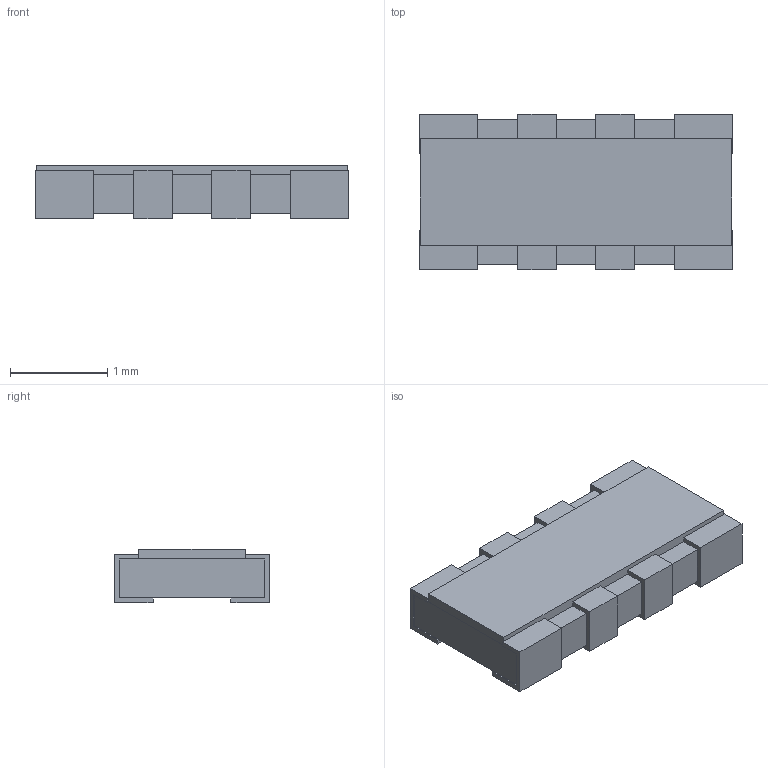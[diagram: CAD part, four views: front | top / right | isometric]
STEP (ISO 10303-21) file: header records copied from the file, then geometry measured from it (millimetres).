
FILE_DESCRIPTION (( 'STEP AP214' ), '1' );
FILE_NAME ( 'RESCAXS8P80_320X150X55L40X40.STEP', '2021-10-06T06:48:57', ( '' ), ( '' ), '', '©2017 PCB Libraries, Inc.', '' );
FILE_SCHEMA (( 'AUTOMOTIVE_DESIGN' ));
Length unit declared in the file: millimetre
Products named in the file (1): RESCAXS8P80_320X150X55L40X40
Bounding box: 3.23 x 1.6 x 0.55 mm (x, y, z)
Volume: 2.5 mm3; surface area: 30.9 mm2
Topology: 10 solids, 10 shells, 92 faces, 216 edges, 144 vertices
Faces by surface type: plane 92
Entity records: 2953 total; most frequent: CARTESIAN_POINT 453, ORIENTED_EDGE 432, DIRECTION 402, VECTOR 216, LINE 216, EDGE_CURVE 216, VERTEX_POINT 144, STYLED_ITEM 103
